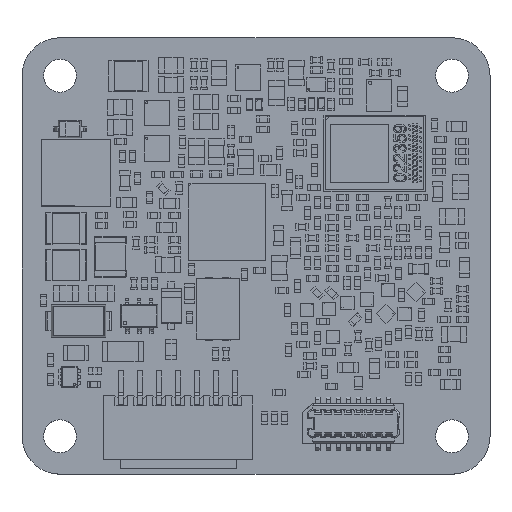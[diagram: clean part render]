
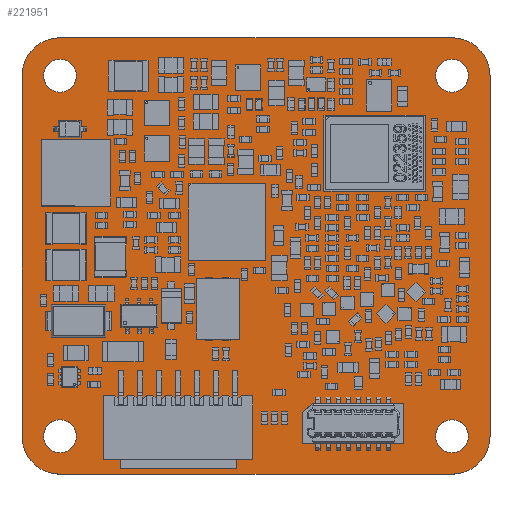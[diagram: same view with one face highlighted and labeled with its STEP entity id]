
A CAD part, top view. The second image highlights one B-rep face of the part: STEP entity #221951.
In plain terms, the highlighted planar face has unit normal (0, 0, 1).
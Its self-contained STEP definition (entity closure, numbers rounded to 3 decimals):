
#6716=FACE_BOUND('',#21512,.T.);
#6717=FACE_BOUND('',#21513,.T.);
#6718=FACE_BOUND('',#21514,.T.);
#6719=FACE_BOUND('',#21515,.T.);
#7497=CIRCLE('',#235751,3.001);
#7499=CIRCLE('',#235755,3.001);
#7501=CIRCLE('',#235759,3.001);
#7503=CIRCLE('',#235763,3.001);
#7505=CIRCLE('',#235766,1.3);
#7507=CIRCLE('',#235769,1.3);
#7509=CIRCLE('',#235772,1.3);
#7511=CIRCLE('',#235775,1.3);
#8616=FACE_OUTER_BOUND('',#21511,.T.);
#21511=EDGE_LOOP('',(#147223,#147224,#147225,#147226,#147227,#147228,#147229,
#147230));
#21512=EDGE_LOOP('',(#147231));
#21513=EDGE_LOOP('',(#147232));
#21514=EDGE_LOOP('',(#147233));
#21515=EDGE_LOOP('',(#147234));
#35171=LINE('',#306831,#65469);
#35175=LINE('',#306843,#65473);
#35179=LINE('',#306855,#65477);
#35183=LINE('',#306867,#65481);
#65469=VECTOR('',#249348,1.);
#65473=VECTOR('',#249360,1.);
#65477=VECTOR('',#249372,1.);
#65481=VECTOR('',#249384,1.);
#95767=VERTEX_POINT('',#306828);
#95768=VERTEX_POINT('',#306830);
#95770=VERTEX_POINT('',#306836);
#95772=VERTEX_POINT('',#306842);
#95774=VERTEX_POINT('',#306848);
#95776=VERTEX_POINT('',#306854);
#95778=VERTEX_POINT('',#306860);
#95780=VERTEX_POINT('',#306866);
#95782=VERTEX_POINT('',#306875);
#95784=VERTEX_POINT('',#306881);
#95786=VERTEX_POINT('',#306887);
#95788=VERTEX_POINT('',#306893);
#115979=EDGE_CURVE('',#95767,#95768,#35171,.T.);
#115982=EDGE_CURVE('',#95768,#95770,#7497,.T.);
#115985=EDGE_CURVE('',#95770,#95772,#35175,.T.);
#115988=EDGE_CURVE('',#95772,#95774,#7499,.T.);
#115991=EDGE_CURVE('',#95774,#95776,#35179,.T.);
#115994=EDGE_CURVE('',#95776,#95778,#7501,.T.);
#115997=EDGE_CURVE('',#95778,#95780,#35183,.T.);
#116000=EDGE_CURVE('',#95780,#95767,#7503,.T.);
#116002=EDGE_CURVE('',#95782,#95782,#7505,.T.);
#116005=EDGE_CURVE('',#95784,#95784,#7507,.T.);
#116008=EDGE_CURVE('',#95786,#95786,#7509,.T.);
#116011=EDGE_CURVE('',#95788,#95788,#7511,.T.);
#147223=ORIENTED_EDGE('',*,*,#115979,.F.);
#147224=ORIENTED_EDGE('',*,*,#116000,.F.);
#147225=ORIENTED_EDGE('',*,*,#115997,.F.);
#147226=ORIENTED_EDGE('',*,*,#115994,.F.);
#147227=ORIENTED_EDGE('',*,*,#115991,.F.);
#147228=ORIENTED_EDGE('',*,*,#115988,.F.);
#147229=ORIENTED_EDGE('',*,*,#115985,.F.);
#147230=ORIENTED_EDGE('',*,*,#115982,.F.);
#147231=ORIENTED_EDGE('',*,*,#116002,.F.);
#147232=ORIENTED_EDGE('',*,*,#116005,.F.);
#147233=ORIENTED_EDGE('',*,*,#116008,.F.);
#147234=ORIENTED_EDGE('',*,*,#116011,.F.);
#209537=PLANE('',#235778);
#221951=ADVANCED_FACE('',(#8616,#6716,#6717,#6718,#6719),#209537,.T.);
#235751=AXIS2_PLACEMENT_3D('',#306837,#249353,#249354);
#235755=AXIS2_PLACEMENT_3D('',#306849,#249365,#249366);
#235759=AXIS2_PLACEMENT_3D('',#306861,#249377,#249378);
#235763=AXIS2_PLACEMENT_3D('',#306872,#249389,#249390);
#235766=AXIS2_PLACEMENT_3D('',#306876,#249395,#249396);
#235769=AXIS2_PLACEMENT_3D('',#306882,#249402,#249403);
#235772=AXIS2_PLACEMENT_3D('',#306888,#249409,#249410);
#235775=AXIS2_PLACEMENT_3D('',#306894,#249416,#249417);
#235778=AXIS2_PLACEMENT_3D('',#306899,#249423,#249424);
#249348=DIRECTION('',(0.,1.,0.));
#249353=DIRECTION('center_axis',(0.,0.,-1.));
#249354=DIRECTION('ref_axis',(-1.,0.,0.));
#249360=DIRECTION('',(1.,0.,0.));
#249365=DIRECTION('center_axis',(0.,0.,-1.));
#249366=DIRECTION('ref_axis',(0.,1.,0.));
#249372=DIRECTION('',(0.,-1.,0.));
#249377=DIRECTION('center_axis',(0.,0.,-1.));
#249378=DIRECTION('ref_axis',(1.,0.,0.));
#249384=DIRECTION('',(-1.,0.,0.));
#249389=DIRECTION('center_axis',(0.,0.,-1.));
#249390=DIRECTION('ref_axis',(0.,-1.,
0.));
#249395=DIRECTION('center_axis',(0.,0.,1.));
#249396=DIRECTION('ref_axis',(1.,0.,0.));
#249402=DIRECTION('center_axis',(0.,0.,1.));
#249403=DIRECTION('ref_axis',(1.,0.,0.));
#249409=DIRECTION('center_axis',(0.,0.,1.));
#249410=DIRECTION('ref_axis',(1.,0.,0.));
#249416=DIRECTION('center_axis',(0.,0.,1.));
#249417=DIRECTION('ref_axis',(1.,0.,0.));
#249423=DIRECTION('center_axis',(0.,0.,1.));
#249424=DIRECTION('ref_axis',(1.,0.,0.));
#306828=CARTESIAN_POINT('',(0.025,3.025,0.));
#306830=CARTESIAN_POINT('',(0.025,31.525,0.));
#306831=CARTESIAN_POINT('',(0.025,3.025,0.));
#306836=CARTESIAN_POINT('',(3.025,34.525,0.));
#306837=CARTESIAN_POINT('Origin',(3.026,31.524,0.));
#306842=CARTESIAN_POINT('',(34.025,34.525,0.));
#306843=CARTESIAN_POINT('',(3.025,34.525,0.));
#306848=CARTESIAN_POINT('',(37.025,31.525,0.));
#306849=CARTESIAN_POINT('Origin',(34.024,31.524,0.));
#306854=CARTESIAN_POINT('',(37.025,3.025,0.));
#306855=CARTESIAN_POINT('',(37.025,31.525,0.));
#306860=CARTESIAN_POINT('',(34.025,0.025,0.));
#306861=CARTESIAN_POINT('Origin',(34.024,3.026,0.));
#306866=CARTESIAN_POINT('',(3.025,0.025,0.));
#306867=CARTESIAN_POINT('',(34.025,0.025,0.));
#306872=CARTESIAN_POINT('Origin',(3.026,3.026,0.));
#306875=CARTESIAN_POINT('',(1.725,3.025,0.));
#306876=CARTESIAN_POINT('Origin',(3.025,3.025,0.));
#306881=CARTESIAN_POINT('',(1.725,31.525,0.));
#306882=CARTESIAN_POINT('Origin',(3.025,31.525,0.));
#306887=CARTESIAN_POINT('',(32.725,3.025,0.));
#306888=CARTESIAN_POINT('Origin',(34.025,3.025,0.));
#306893=CARTESIAN_POINT('',(32.725,31.525,0.));
#306894=CARTESIAN_POINT('Origin',(34.025,31.525,0.));
#306899=CARTESIAN_POINT('Origin',(0.025,3.025,0.));
